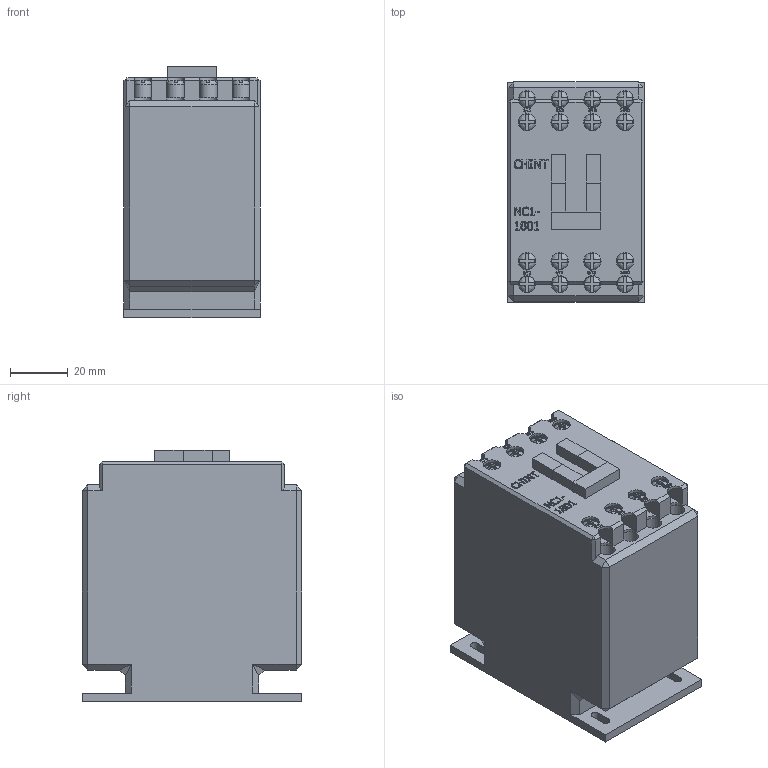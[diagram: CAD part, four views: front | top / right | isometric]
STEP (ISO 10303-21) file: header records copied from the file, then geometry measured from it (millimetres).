
FILE_DESCRIPTION(/* description */ (''),/* implementation_level */ '2;1');
FILE_NAME(/* name */ 'D:\CHINT2\NC1\NC1-1801 230В 50.stp',/* time_stamp */ '2017-11-12T20:09:25+03:00',/* author */ ('RSagdiev'),/* organization */ (''),/* preprocessor_version */ 'ST-DEVELOPER v16.5',/* originating_system */ 'Autodesk Inventor 2017',/* authorisation */ '');
FILE_SCHEMA (('AUTOMOTIVE_DESIGN { 1 0 10303 214 3 1 1 }'));
Length unit declared in the file: millimetre
Products named in the file (1): NC1-1801 230В 50
Bounding box: 47 x 76 x 87 mm (x, y, z)
Volume: 276341.9 mm3; surface area: 34967.3 mm2
Topology: 19 solids, 19 shells, 1059 faces, 2780 edges, 1816 vertices
Faces by surface type: plane 774, bspline 237, cylinder 48
Full cylindrical faces by diameter (mm): 5.8 x8, 6 x16
Entity records: 35008 total; most frequent: CARTESIAN_POINT 10491, ORIENTED_EDGE 5512, DIRECTION 4116, EDGE_CURVE 2756, LINE 1882, VECTOR 1882, VERTEX_POINT 1816, EDGE_LOOP 1164
